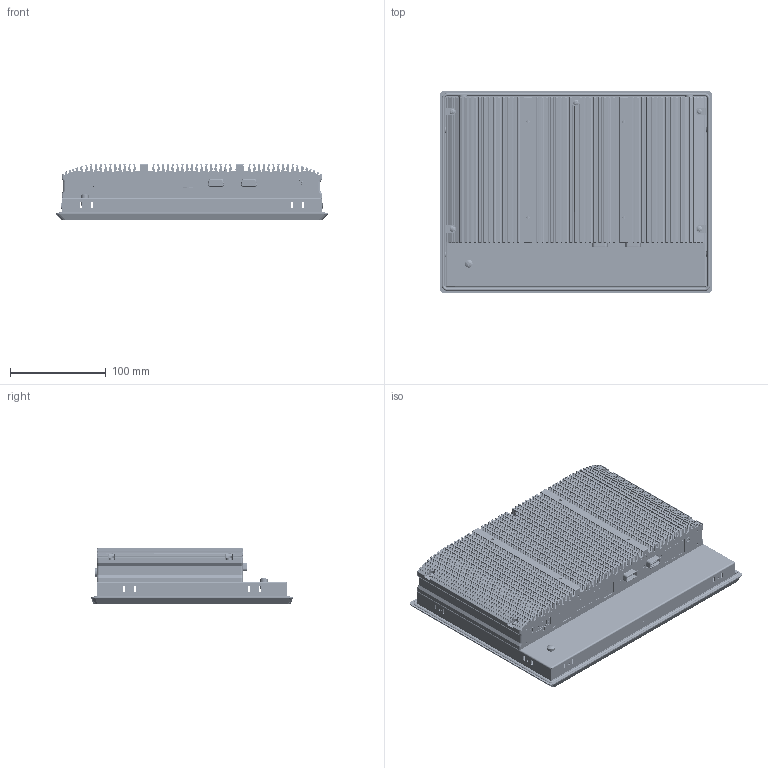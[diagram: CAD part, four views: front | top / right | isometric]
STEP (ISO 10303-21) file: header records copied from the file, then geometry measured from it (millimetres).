
FILE_DESCRIPTION((''),'2;1');
FILE_NAME('FPM-1004-20250228','2025-08-02T22:51:09',('anthony'),(''),'CREO PARAMETRIC BY PTC INC, 2024063','CREO PARAMETRIC BY PTC INC, 2024063','');
FILE_SCHEMA(('CONFIG_CONTROL_DESIGN','SHAPE_APPEARANCE_LAYERS_GROUPS'));
Products named in the file (1): FPM-1004-20250228
Bounding box: 284 x 210.2 x 58.68 mm (x, y, z)
Volume: 509766 mm3; surface area: 734973.5 mm2
Topology: 38 solids, 50 shells, 6862 faces, 21661 edges, 14994 vertices
Faces by surface type: plane 3697, cylinder 2757, cone 224, torus 96, bspline 70, sphere 14, revolution 4
Entity records: 301339 total; most frequent: CARTESIAN_POINT 56100, ORIENTED_EDGE 43110, DIRECTION 40205, EDGE_CURVE 21617, VERTEX_POINT 14995, PRESENTATION_STYLE_ASSIGNMENT 14160, AXIS2_PLACEMENT_3D 13922, STYLED_ITEM 13789
